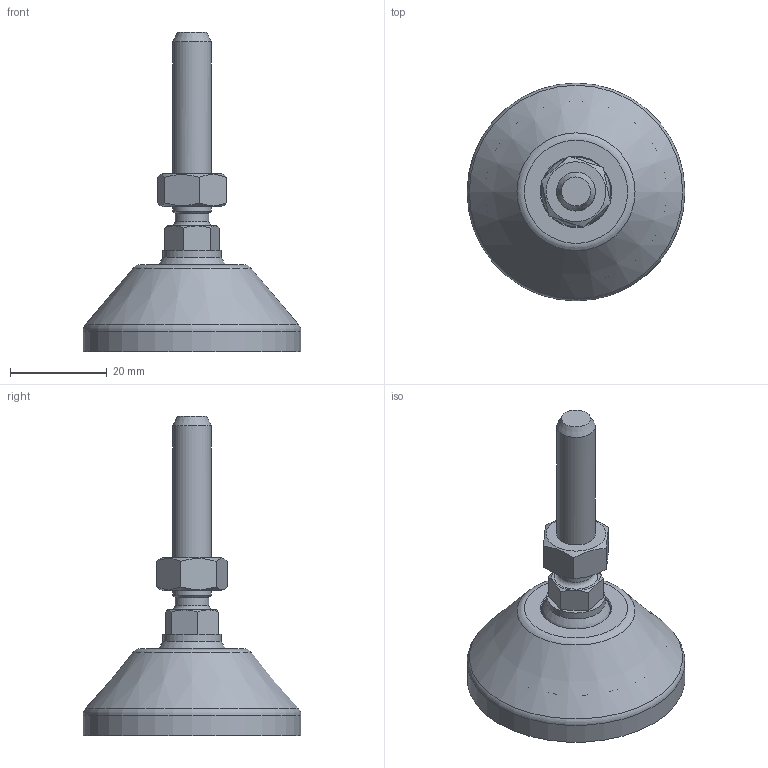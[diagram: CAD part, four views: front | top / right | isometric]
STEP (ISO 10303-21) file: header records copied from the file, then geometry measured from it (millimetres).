
FILE_DESCRIPTION(('STEP AP203'), '1');
FILE_NAME('栖闉罻', '', ('UNSPECIFIED'), ('UNSPECIFIED'), 'C3D Converter', 'C3D Toolkit', '');
FILE_SCHEMA(('CONFIG_CONTROL_DESIGN'));
Length unit declared in the file: millimetre
Products named in the file (4): A00015.1045; A00020.108040
Assembly tree (3 placements, depth 3):
  (unnamed)
    A00015.1045
    A00020.108040
      (unnamed)
Bounding box: 45 x 45 x 66 mm (x, y, z)
Volume: 16817.8 mm3; surface area: 8806.1 mm2
Topology: 2 solids, 2 shells, 132 faces, 376 edges, 254 vertices
Faces by surface type: plane 78, cylinder 26, cone 13, torus 13, sphere 2
Full cylindrical faces by diameter (mm): 7 x1, 8 x2, 12 x1, 14.3 x1, 15 x2, 15.5 x1, 37.3 x1, 45 x1
Entity records: 7461 total; most frequent: CARTESIAN_POINT 2833, DIRECTION 710, ORIENTED_EDGE 702, EDGE_CURVE 351, AXIS2_PLACEMENT_3D 282, VERTEX_POINT 253, EDGE_LOOP 162, FACE_BOUND 149
